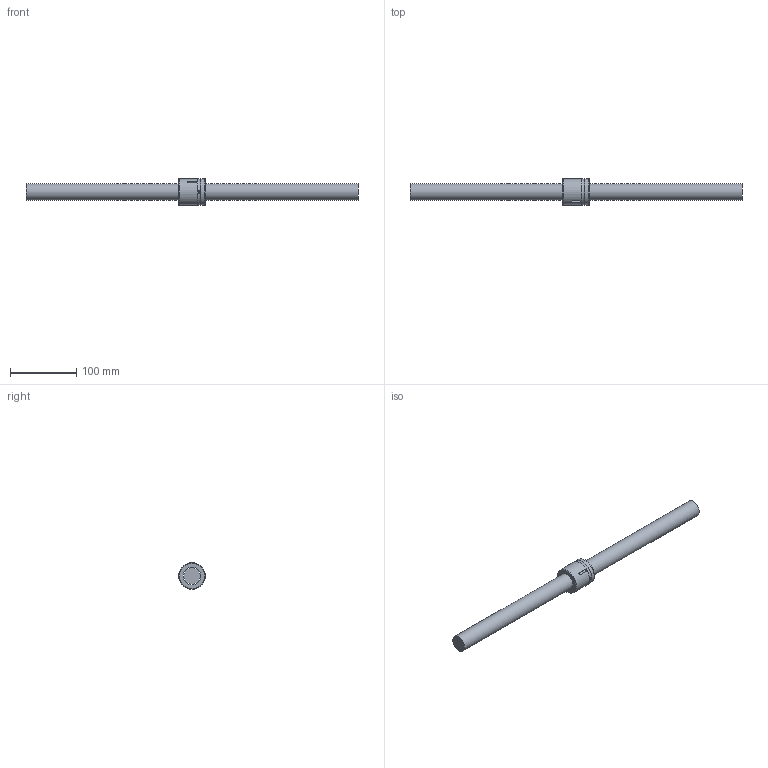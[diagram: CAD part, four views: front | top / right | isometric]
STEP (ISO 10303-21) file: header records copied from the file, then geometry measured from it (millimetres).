
FILE_DESCRIPTION (( 'STEP AP203' ), '1' );
FILE_NAME ('SCI02504-4.step', '2024-05-23T08:29:32', ( '' ), ( '' ), 'SwSTEP 2.0', 'SolidWorks 2022', '' );
FILE_SCHEMA (( 'CONFIG_CONTROL_DESIGN' ));
Length unit declared in the file: millimetre
Products named in the file (1): SCI02504-4
Bounding box: 500 x 40 x 40 mm (x, y, z)
Volume: 272941.6 mm3; surface area: 50046.2 mm2
Topology: 2 solids, 2 shells, 17 faces, 35 edges, 23 vertices
Faces by surface type: cylinder 7, plane 7, torus 3
Full cylindrical faces by diameter (mm): 3.5 x1, 25 x1, 26.6 x1, 40 x2
Entity records: 617 total; most frequent: CARTESIAN_POINT 218, DIRECTION 68, ORIENTED_EDGE 48, AXIS2_PLACEMENT_3D 30, EDGE_LOOP 30, FACE_OUTER_BOUND 25, EDGE_CURVE 24, VERTEX_POINT 20
